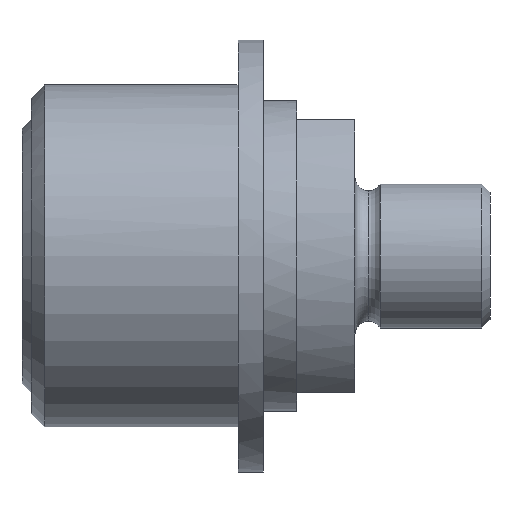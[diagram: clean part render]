
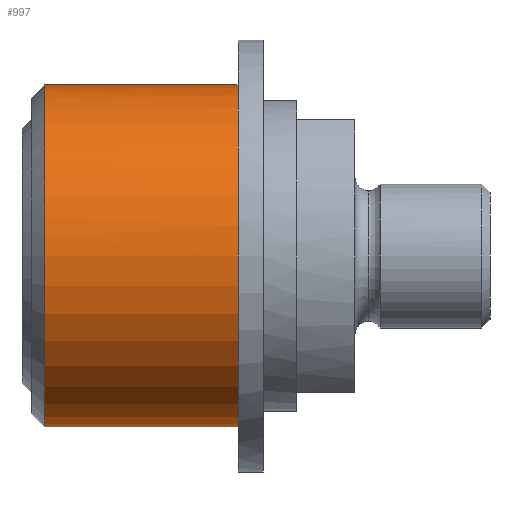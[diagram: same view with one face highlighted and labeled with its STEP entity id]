
A CAD part, front view. The second image highlights one B-rep face of the part: STEP entity #997.
In plain terms, the highlighted cylindrical face has radius 19 mm (diameter 38 mm), a partial arc.
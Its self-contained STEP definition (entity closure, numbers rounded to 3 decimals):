
#831=CARTESIAN_POINT('Vertex',(0.,0.,19.)) ;
#834=CARTESIAN_POINT('Axis2P3D Location',(0.,0.,0.)) ;
#838=CARTESIAN_POINT('Vertex',(0.,-19.,0.)) ;
#841=CARTESIAN_POINT('Axis2P3D Location',(0.,0.,0.)) ;
#845=CARTESIAN_POINT('Vertex',(0.,0.,-19.)) ;
#931=CARTESIAN_POINT('Line Origine',(28.,0.,-19.)) ;
#935=CARTESIAN_POINT('Vertex',(-21.474,0.,-19.)) ;
#952=CARTESIAN_POINT('Vertex',(-21.474,0.,19.)) ;
#955=CARTESIAN_POINT('Line Origine',(28.,0.,19.)) ;
#969=CARTESIAN_POINT('Axis2P3D Location',(28.,0.,0.)) ;
#975=CARTESIAN_POINT('Control Point',(-21.474,0.,19.)) ;
#976=CARTESIAN_POINT('Control Point',(-21.474,-5.969,19.)) ;
#977=CARTESIAN_POINT('Control Point',(-21.474,-11.944,16.663)) ;
#978=CARTESIAN_POINT('Control Point',(-21.474,-16.663,11.944)) ;
#979=CARTESIAN_POINT('Control Point',(-21.474,-19.,5.969)) ;
#980=CARTESIAN_POINT('Control Point',(-21.474,-19.,0.)) ;
#981=CARTESIAN_POINT('Vertex',(-21.474,-19.,0.)) ;
#984=CARTESIAN_POINT('Axis2P3D Location',(-21.474,0.,0.)) ;
#835=DIRECTION('Axis2P3D Direction',(1.,0.,-0.)) ;
#842=DIRECTION('Axis2P3D Direction',(1.,0.,-0.)) ;
#932=DIRECTION('Vector Direction',(-1.,0.,0.)) ;
#956=DIRECTION('Vector Direction',(-1.,0.,0.)) ;
#970=DIRECTION('Axis2P3D Direction',(-1.,-0.,-0.)) ;
#971=DIRECTION('Axis2P3D XDirection',(0.,0.,-1.)) ;
#985=DIRECTION('Axis2P3D Direction',(-1.,-0.,-0.)) ;
#836=AXIS2_PLACEMENT_3D('Circle Axis2P3D',#834,#835,$) ;
#843=AXIS2_PLACEMENT_3D('Circle Axis2P3D',#841,#842,$) ;
#972=AXIS2_PLACEMENT_3D('Cylinder Axis2P3D',#969,#970,#971) ;
#986=AXIS2_PLACEMENT_3D('Circle Axis2P3D',#984,#985,$) ;
#990=ORIENTED_EDGE('',*,*,#959,.T.) ;
#991=ORIENTED_EDGE('',*,*,#983,.T.) ;
#992=ORIENTED_EDGE('',*,*,#988,.T.) ;
#993=ORIENTED_EDGE('',*,*,#937,.T.) ;
#994=ORIENTED_EDGE('',*,*,#847,.F.) ;
#995=ORIENTED_EDGE('',*,*,#840,.F.) ;
#933=VECTOR('Line Direction',#932,1.) ;
#957=VECTOR('Line Direction',#956,1.) ;
#997=ADVANCED_FACE('AGS3402M16',(#996),#973,.T.) ;
#974=B_SPLINE_CURVE_WITH_KNOTS('',5,(#975,#976,#977,#978,#979,#980),.UNSPECIFIED.,.F.,.U.,(6,6),(-14.923,14.923),.UNSPECIFIED.) ;
#837=CIRCLE('generated circle',#836,19.) ;
#844=CIRCLE('generated circle',#843,19.) ;
#987=CIRCLE('generated circle',#986,19.) ;
#973=CYLINDRICAL_SURFACE('generated cylinder',#972,19.) ;
#840=EDGE_CURVE('',#832,#839,#837,.T.) ;
#847=EDGE_CURVE('',#839,#846,#844,.T.) ;
#937=EDGE_CURVE('',#936,#846,#934,.F.) ;
#959=EDGE_CURVE('',#832,#953,#958,.T.) ;
#983=EDGE_CURVE('',#953,#982,#974,.T.) ;
#988=EDGE_CURVE('',#982,#936,#987,.F.) ;
#989=EDGE_LOOP('',(#990,#991,#992,#993,#994,#995)) ;
#996=FACE_OUTER_BOUND('',#989,.T.) ;
#934=LINE('Line',#931,#933) ;
#958=LINE('Line',#955,#957) ;
#832=VERTEX_POINT('',#831) ;
#839=VERTEX_POINT('',#838) ;
#846=VERTEX_POINT('',#845) ;
#936=VERTEX_POINT('',#935) ;
#953=VERTEX_POINT('',#952) ;
#982=VERTEX_POINT('',#981) ;
